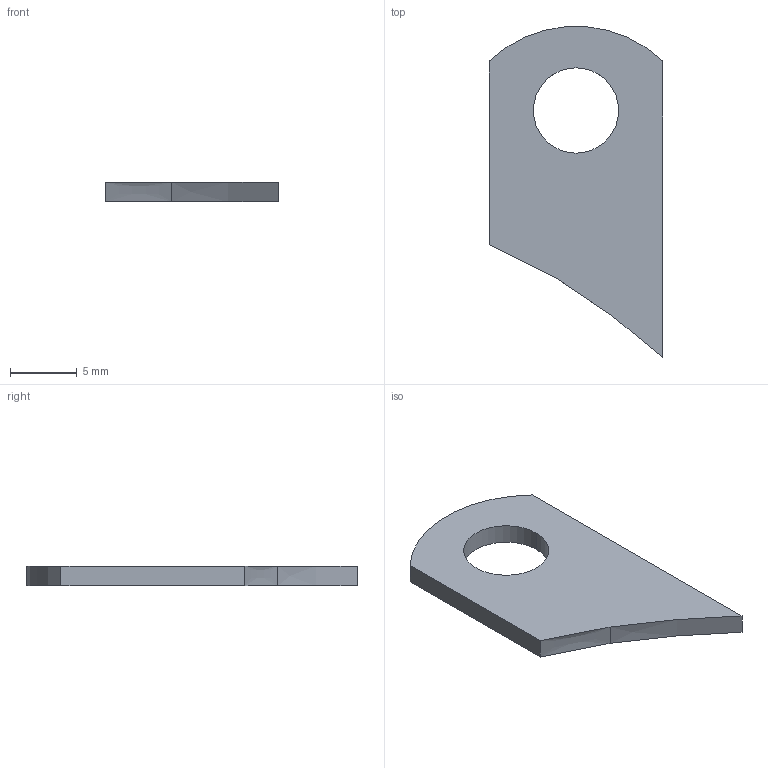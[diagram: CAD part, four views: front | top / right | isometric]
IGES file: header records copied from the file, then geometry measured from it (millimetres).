
Start section: START RECORD GO HERE.
Global section: file name: 20_M_EN_12040 (Chape Admission au chassis 1).igs; native system: IBM CATIA IGES - CATIA Version 5 Release 19 ; preprocessor: CATIA Version 5 Release 19 ; author: Calixthe; organization: MACHINEDECALOU; date: 20200123.093556; units: millimetre
Bounding box: 13 x 24.82 x 1.5 mm (x, y, z)
Surface area: 566.4 mm2 (no closed solid volume)
Topology: 0 solids, 0 shells, 9 faces, 44 edges, 46 vertices
Faces by surface type: plane 4, revolution 3, extrusion 2
